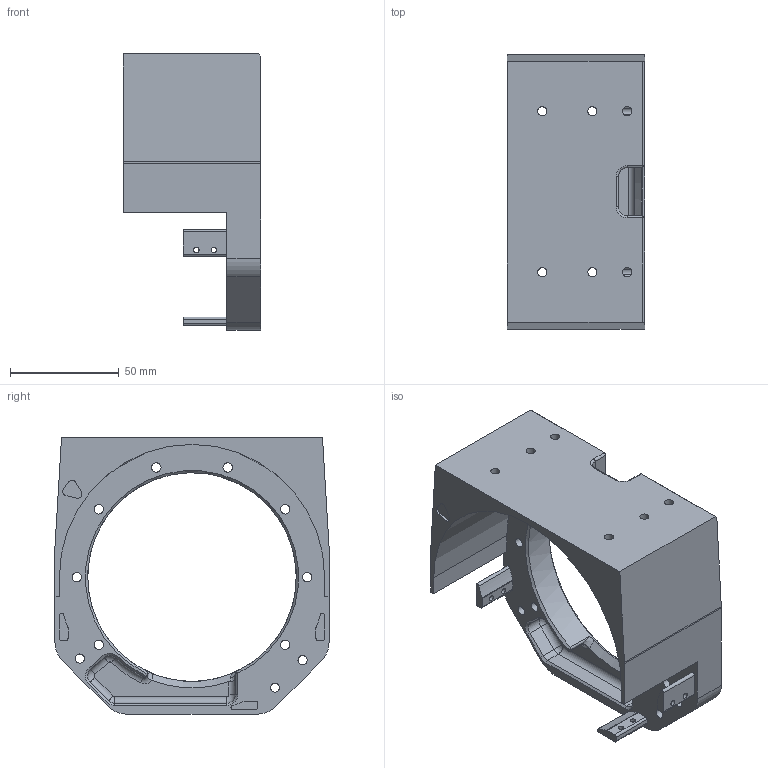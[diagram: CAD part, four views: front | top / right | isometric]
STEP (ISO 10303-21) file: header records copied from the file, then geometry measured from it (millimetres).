
FILE_DESCRIPTION(/* description */ ('STEP AP242 Edition 2','CAx-IF Rec.Pracs.---Representation and Presentation of Product Manufacturing Information (PMI)---4.0---2014-10-13','CAx-IF Rec.Pracs.---3D Tessellated Geometry---0.4---2014-09-14','2;1','CAx-IF Rec.Pracs.---User Defined Attributes---1.5---2016-08-15'),/* implementation_level */ '2;1');
FILE_NAME(/* name */ 'Assy_ForMFG - KD-D-101R_R_Hip_Static',/* time_stamp */ '2026-05-15T19:56:32Z',/* author */ (''),/* organization */ (''),/* preprocessor_version */ 'ST-DEVELOPER v20',/* originating_system */ 'ONSHAPE BY PTC INC, 1.215',/* authorisation */ ' ');
FILE_SCHEMA (('AP242_MANAGED_MODEL_BASED_3D_ENGINEERING_MIM_LF { 1 0 10303 442 3 1 4 }'));
Length unit declared in the file: metre
Products named in the file (1): KD-D-101R_R_Hip_Static
Bounding box: 63 x 126 x 127 mm (x, y, z)
Volume: 177198.8 mm3; surface area: 61197.3 mm2
Topology: 1 solids, 1 shells, 264 faces, 699 edges, 428 vertices
Faces by surface type: cylinder 141, plane 73, torus 19, cone 15, sphere 10, bspline 6
Full cylindrical faces by diameter (mm): 2.5 x6, 4.2 x9, 4.3 x8, 8.25 x8, 96 x1
Entity records: 8106 total; most frequent: CARTESIAN_POINT 1583, DIRECTION 1447, ORIENTED_EDGE 1274, EDGE_CURVE 637, AXIS2_PLACEMENT_3D 586, VERTEX_POINT 415, EDGE_LOOP 352, FACE_BOUND 352
